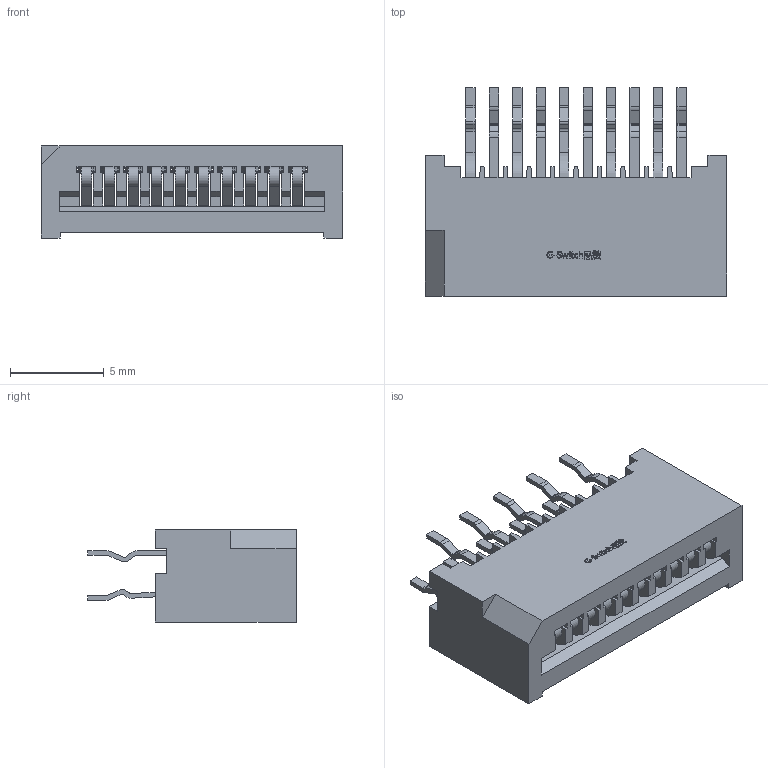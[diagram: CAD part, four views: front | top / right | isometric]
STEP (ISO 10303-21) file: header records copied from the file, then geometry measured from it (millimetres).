
FILE_DESCRIPTION (( 'STEP AP203' ), '1' );
FILE_NAME ('GT-F1252DV75-10SBT01.STEP', '2024-01-15T02:06:13', ( 'Microsoft' ), ( 'Microsoft' ), 'SwSTEP 2.0', 'SolidWorks 2023', '' );
FILE_SCHEMA (( 'CONFIG_CONTROL_DESIGN' ));
Length unit declared in the file: millimetre
Products named in the file (5): 12510001.stp; 125A0001_1.stp; GT-F1252DV75-10SBT01.stp; 125A20001.stp; GT-F1252DV75-10SBT01
Assembly tree (12 placements, depth 3):
  GT-F1252DV75-10SBT01
    GT-F1252DV75-10SBT01.stp
      125A0001_1.stp
      125A20001.stp  x5
      12510001.stp  x5
Bounding box: 16.05 x 11.1 x 4.9 mm (x, y, z)
Volume: 375.6 mm3; surface area: 1146.8 mm2
Topology: 11 solids, 11 shells, 1037 faces, 3005 edges, 1990 vertices
Faces by surface type: plane 702, cylinder 255, bspline 80
Entity records: 23028 total; most frequent: CARTESIAN_POINT 7060, ORIENTED_EDGE 3442, DIRECTION 2717, EDGE_CURVE 1721, VECTOR 1455, LINE 1455, VERTEX_POINT 1134, AXIS2_PLACEMENT_3D 631
